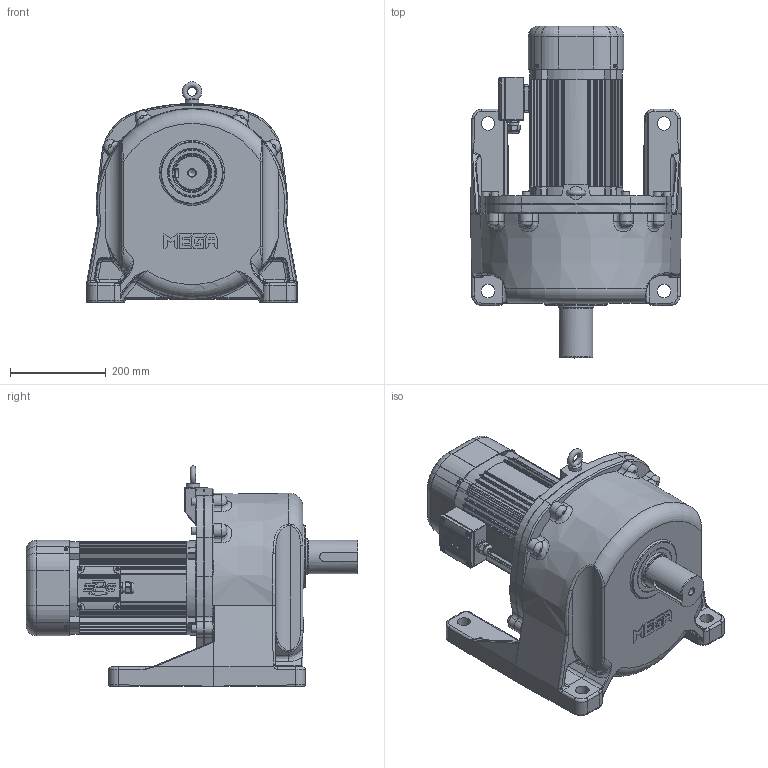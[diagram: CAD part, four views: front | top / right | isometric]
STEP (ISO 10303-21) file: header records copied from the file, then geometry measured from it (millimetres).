
FILE_DESCRIPTION(/* description */ (''),/* implementation_level */ '2;1');
FILE_NAME(/* name */ 'Z:\동력 3D 파일\PML270_2.2kW_Brake_3D.stp',/* time_stamp */ '2021-11-30T15:52:08+09:00',/* author */ ('jaebok'),/* organization */ (''),/* preprocessor_version */ 'ST-DEVELOPER v18.1',/* originating_system */ 'Autodesk Inventor 2022',/* authorisation */ '');
FILE_SCHEMA (('AUTOMOTIVE_DESIGN { 1 0 10303 214 3 1 1 }'));
Length unit declared in the file: millimetre
Products named in the file (1): 부품17
Bounding box: 440 x 693.1 x 460 mm (x, y, z)
Volume: 15934539.6 mm3; surface area: 2323464 mm2
Topology: 11 solids, 33 shells, 3111 faces, 7800 edges, 4718 vertices
Faces by surface type: plane 1058, cylinder 939, bspline 516, torus 262, cone 231, sphere 105
Full cylindrical faces by diameter (mm): 3.242 x4, 3.25 x1, 3.6 x4, 4 x21, 5 x13, 6 x5, 6.647 x4, 7 x8, 8 x5, 9 x4, 10 x10, 12 x9, 12.5 x1, 13.835 x9, 15 x1, 16 x9, 17 x8, 20 x2, 21 x1, 23.6 x1, 24 x1, 25 x1, 28 x5, 36 x1, 48 x1, 55 x1, 60 x1, 62 x1, 70 x1, 72 x2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
Entity records: 121471 total; most frequent: CARTESIAN_POINT 46256, ORIENTED_EDGE 15278, DIRECTION 15124, EDGE_CURVE 7639, AXIS2_PLACEMENT_3D 6041, VERTEX_POINT 4721, EDGE_LOOP 3352, CIRCLE 3254
